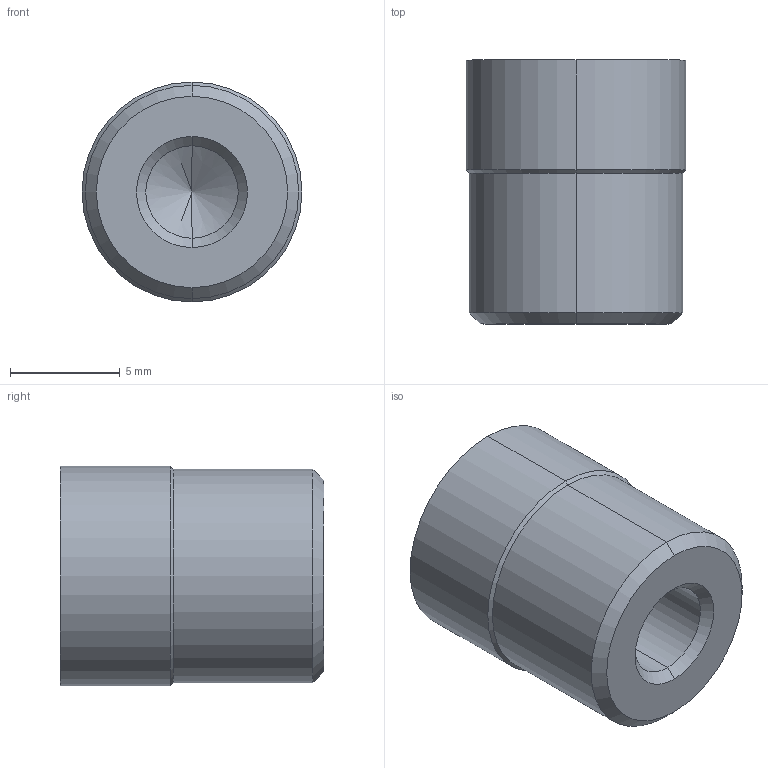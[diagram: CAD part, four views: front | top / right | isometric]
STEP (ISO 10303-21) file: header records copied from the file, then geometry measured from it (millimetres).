
FILE_DESCRIPTION (( 'STEP AP203' ), '1' );
FILE_NAME ('DAP-10N.STEP', '2016-01-11T15:24:05', ( 'Balzi' ), ( '' ), 'SwSTEP 2.0', 'SolidWorks 2015', '' );
FILE_SCHEMA (( 'CONFIG_CONTROL_DESIGN' ));
Length unit declared in the file: millimetre
Products named in the file (1): DAP-10N
Bounding box: 10 x 12 x 10 mm (x, y, z)
Volume: 776.2 mm3; surface area: 649.2 mm2
Topology: 1 solids, 1 shells, 96 faces, 266 edges, 173 vertices
Faces by surface type: cylinder 48, plane 40, cone 8
Entity records: 3153 total; most frequent: DIRECTION 558, CARTESIAN_POINT 534, ORIENTED_EDGE 528, EDGE_CURVE 264, AXIS2_PLACEMENT_3D 197, VERTEX_POINT 173, VECTOR 164, LINE 164
